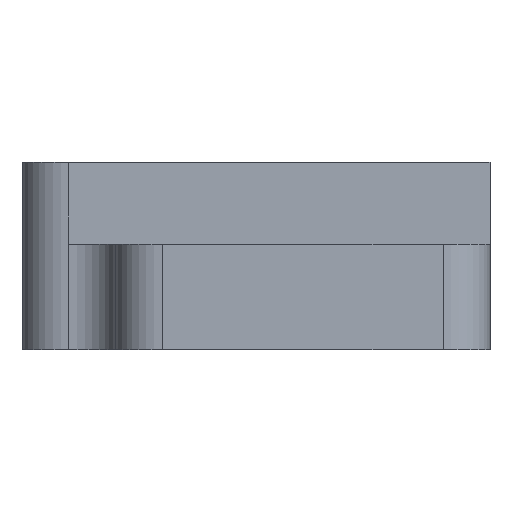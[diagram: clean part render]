
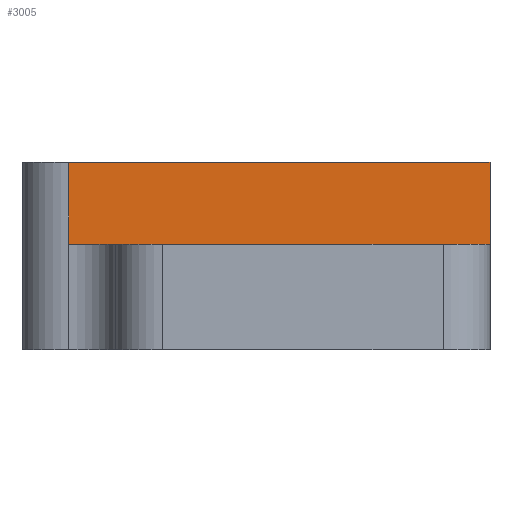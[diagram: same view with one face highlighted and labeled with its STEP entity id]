
A CAD part, front view. The second image highlights one B-rep face of the part: STEP entity #3005.
In plain terms, the highlighted planar face has unit normal (0, -1, 0).
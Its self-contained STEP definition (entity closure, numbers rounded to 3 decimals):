
#68 = VERTEX_POINT ( 'NONE', #603 ) ;
#206 = DIRECTION ( 'NONE',  ( 0., 0., -1. ) ) ;
#372 = ORIENTED_EDGE ( 'NONE', *, *, #3624, .F. ) ;
#566 = LINE ( 'NONE', #675, #6067 ) ;
#595 = ORIENTED_EDGE ( 'NONE', *, *, #4452, .F. ) ;
#603 = CARTESIAN_POINT ( 'NONE',  ( -71.516, 46.941, 13.336 ) ) ;
#675 = CARTESIAN_POINT ( 'NONE',  ( -73.516, 46.941, 16.836 ) ) ;
#700 = LINE ( 'NONE', #2985, #2748 ) ;
#735 = PLANE ( 'NONE',  #6519 ) ;
#803 = EDGE_LOOP ( 'NONE', ( #1075, #372, #1972, #595 ) ) ;
#880 = DIRECTION ( 'NONE',  ( 0., 0., 1. ) ) ;
#1075 = ORIENTED_EDGE ( 'NONE', *, *, #7261, .T. ) ;
#1165 = VECTOR ( 'NONE', #880, 1000. ) ;
#1445 = LINE ( 'NONE', #3725, #1165 ) ;
#1972 = ORIENTED_EDGE ( 'NONE', *, *, #3758, .T. ) ;
#2024 = VERTEX_POINT ( 'NONE', #7384 ) ;
#2377 = LINE ( 'NONE', #4692, #5340 ) ;
#2560 = DIRECTION ( 'NONE',  ( 0., -1., 0. ) ) ;
#2689 = CARTESIAN_POINT ( 'NONE',  ( -53.516, 46.941, 13.336 ) ) ;
#2748 = VECTOR ( 'NONE', #4696, 1000. ) ;
#2851 = DIRECTION ( 'NONE',  ( 1., 0., 0. ) ) ;
#2985 = CARTESIAN_POINT ( 'NONE',  ( -71.516, 46.941, 8.836 ) ) ;
#3005 = ADVANCED_FACE ( 'NONE', ( #5998 ), #735, .T. ) ;
#3168 = CARTESIAN_POINT ( 'NONE',  ( -73.516, 46.941, 8.836 ) ) ;
#3504 = VERTEX_POINT ( 'NONE', #2689 ) ;
#3624 = EDGE_CURVE ( 'NONE', #3504, #68, #2377, .T. ) ;
#3725 = CARTESIAN_POINT ( 'NONE',  ( -53.516, 46.941, 8.836 ) ) ;
#3758 = EDGE_CURVE ( 'NONE', #3504, #2024, #1445, .T. ) ;
#4452 = EDGE_CURVE ( 'NONE', #6102, #2024, #566, .T. ) ;
#4692 = CARTESIAN_POINT ( 'NONE',  ( -69.516, 46.941, 13.336 ) ) ;
#4696 = DIRECTION ( 'NONE',  ( 0., 0., -1. ) ) ;
#5241 = CARTESIAN_POINT ( 'NONE',  ( -71.516, 46.941, 16.836 ) ) ;
#5340 = VECTOR ( 'NONE', #5809, 1000. ) ;
#5809 = DIRECTION ( 'NONE',  ( -1., 0., 0. ) ) ;
#5998 = FACE_OUTER_BOUND ( 'NONE', #803, .T. ) ;
#6067 = VECTOR ( 'NONE', #2851, 1000. ) ;
#6102 = VERTEX_POINT ( 'NONE', #5241 ) ;
#6519 = AXIS2_PLACEMENT_3D ( 'NONE', #3168, #2560, #206 ) ;
#7261 = EDGE_CURVE ( 'NONE', #6102, #68, #700, .T. ) ;
#7384 = CARTESIAN_POINT ( 'NONE',  ( -53.516, 46.941, 16.836 ) ) ;
